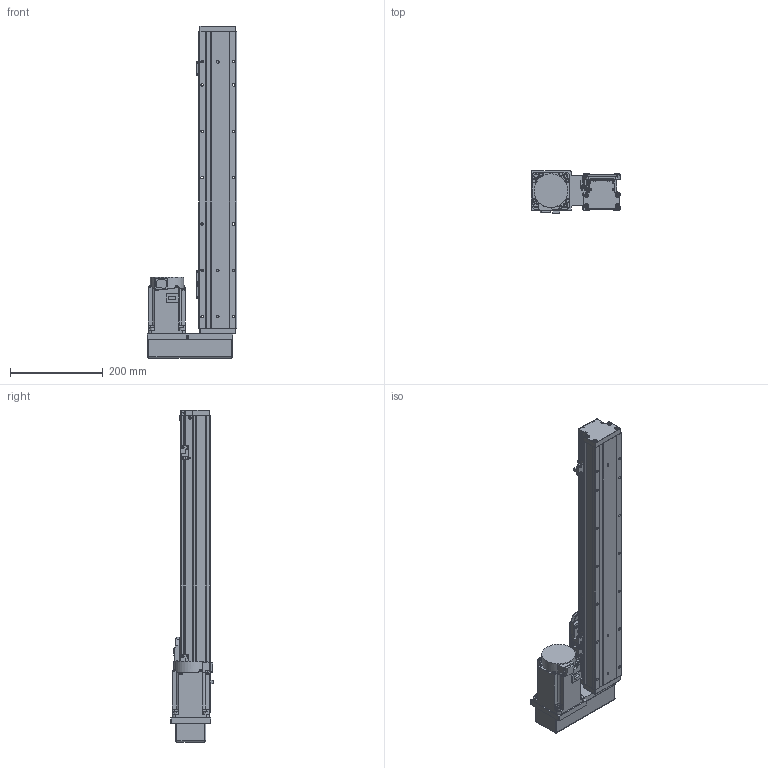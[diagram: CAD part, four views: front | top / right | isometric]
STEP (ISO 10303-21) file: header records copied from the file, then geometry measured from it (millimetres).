
FILE_DESCRIPTION (( 'STEP AP203' ), '1' );
FILE_NAME ('GTH8-450-BL-M75-C4.step', '2023-02-14T02:24:21', ( '微软用户' ), ( '微软中国' ), 'SwSTEP 2.0', 'SolidWorks 2020', '' );
FILE_SCHEMA (( 'CONFIG_CONTROL_DESIGN' ));
Length unit declared in the file: millimetre
Products named in the file (18): hg-kn73j_-s100; GTH80-006; GTH50-024; GTH8-450-BL-M75-C4; GTH80-013; GTH50-023; GBT 70.3-M3℅6; GBT96.1-2002 3×0.8; GTH80-022; BTH-M3X5X6; GTH80-001_450; GBT 70.1-M3℅6; CTHA86-015-3_CTHA86-015-4; GTH80-003; GBT 70.1-M4×16; CTHA86-035; GTH80-004; GTH80-028
Assembly tree (57 placements, depth 2):
  GTH8-450-BL-M75-C4
    GTH80-001_450
    GTH80-003
    GTH80-004
    GTH80-006
    GTH80-013
    GBT 70.3-M3℅6  x4
    GTH80-022
    GBT 70.1-M3℅6  x14
    GBT 70.1-M4×16  x8
    GTH80-028  x2
    GTH50-024  x3
    GTH50-023  x3
    GBT96.1-2002 3×0.8  x6
    BTH-M3X5X6  x8
    CTHA86-015-3_CTHA86-015-4
    CTHA86-035
    hg-kn73j_-s100
Bounding box: 193.5 x 92.3 x 716 mm (x, y, z)
Volume: 4317537.2 mm3; surface area: 455756.8 mm2
Topology: 59 solids, 59 shells, 2191 faces, 5082 edges, 3112 vertices
Faces by surface type: plane 1153, cylinder 623, cone 243, torus 158, sphere 12, bspline 2
Entity records: 39440 total; most frequent: CARTESIAN_POINT 6623, DIRECTION 6501, ORIENTED_EDGE 5974, EDGE_CURVE 2987, AXIS2_PLACEMENT_3D 2290, LINE 1921, VECTOR 1921, VERTEX_POINT 1887
